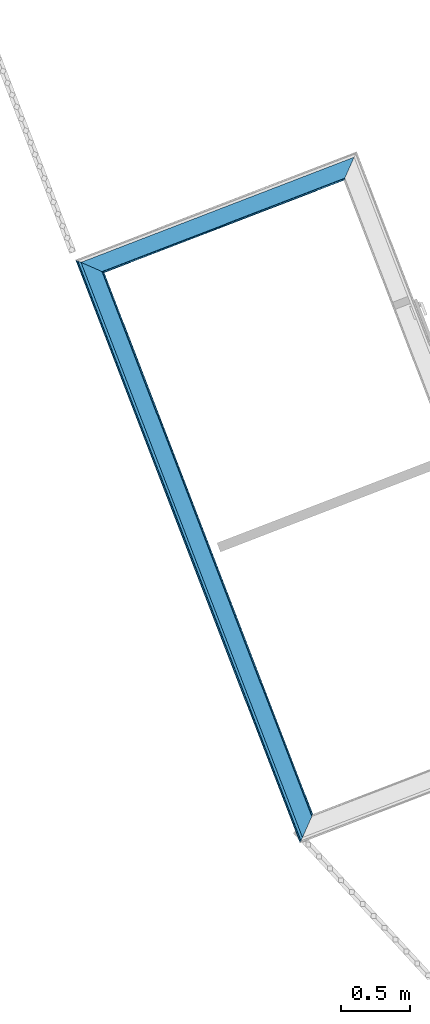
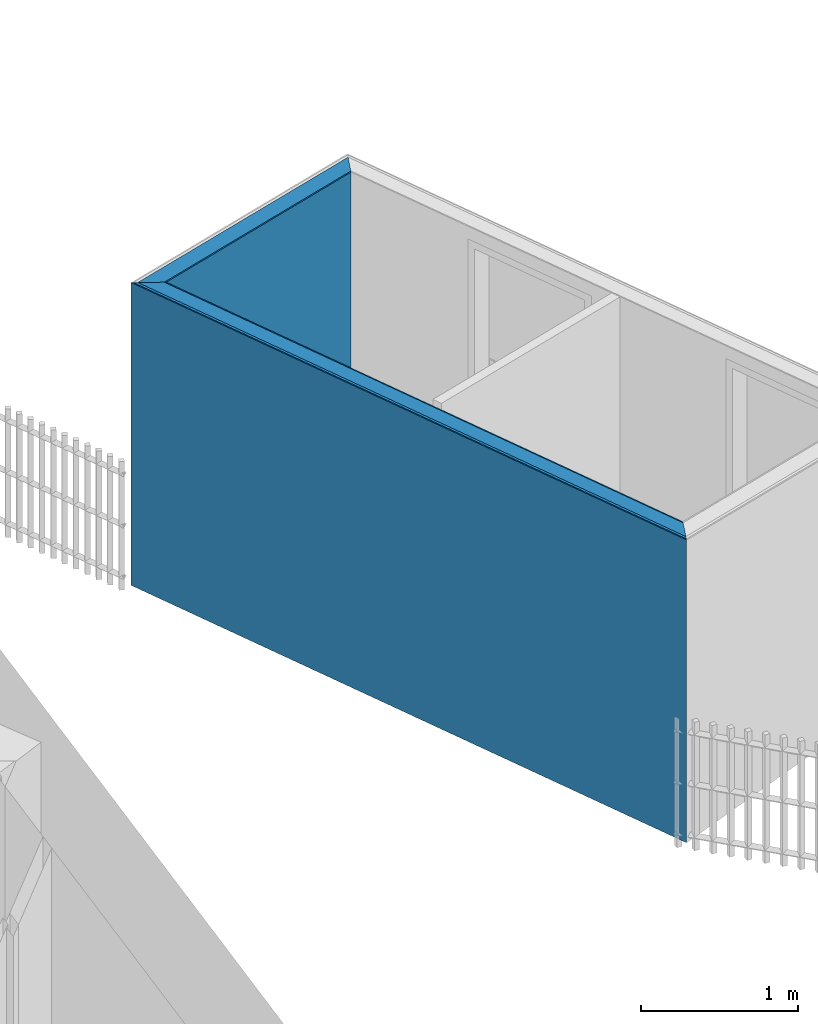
# One storey, part 127 of 195: 6 building element parts, 2 elements without a shape of their own.
"""IFC2X3 building model written with IfcOpenShell, lengths in metres."""

from ifc_helpers import new_model, entity, si_unit, converted_unit, derived_unit, money_unit, direction, frame, origin_with_axes, place, context, subcontext, project, spatial, polyline, outline, extrude, boolean, faceted_brep, material, type_object, element, aggregate, save


model = new_model("IFC2X3")

# Units and contexts
model_context = context("Model", 3, precision=1e-05, world=origin_with_axes(), true_north=direction((0.0, 1.0)))
body_context = subcontext(model_context, "Body", "Model", "MODEL_VIEW")
ifc_project = project(units=[si_unit("LENGTHUNIT", "METRE"), si_unit("AREAUNIT", "SQUARE_METRE"), si_unit("VOLUMEUNIT", "CUBIC_METRE"), converted_unit("PLANEANGLEUNIT", "DEGREE", entity("IfcPlaneAngleMeasure", 0.0174532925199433), si_unit("PLANEANGLEUNIT", "RADIAN"), dimensions=[0, 0, 0, 0, 0, 0, 0]), money_unit("CHF"), converted_unit("TIMEUNIT", "Year", entity("IfcTimeMeasure", 31557600.0), si_unit("TIMEUNIT", "SECOND"), dimensions=[0, 0, 1, 0, 0, 0, 0]), si_unit("MASSUNIT", "GRAM", prefix="KILO"), si_unit("THERMODYNAMICTEMPERATUREUNIT", "DEGREE_CELSIUS"), si_unit("LUMINOUSINTENSITYUNIT", "LUMEN"), si_unit("ENERGYUNIT", "JOULE", prefix="MEGA"), derived_unit("THERMALCONDUCTANCEUNIT", [(si_unit("POWERUNIT", "WATT"), 1), (si_unit("LENGTHUNIT", "METRE"), -1), (si_unit("THERMODYNAMICTEMPERATUREUNIT", "KELVIN"), -1)]), derived_unit("SPECIFICHEATCAPACITYUNIT", [(si_unit("ENERGYUNIT", "JOULE"), 1), (si_unit("MASSUNIT", "GRAM", prefix="KILO"), -1), (si_unit("THERMODYNAMICTEMPERATUREUNIT", "KELVIN"), -1)]), derived_unit("MASSDENSITYUNIT", [(si_unit("MASSUNIT", "GRAM", prefix="KILO"), 1), (si_unit("VOLUMEUNIT", "CUBIC_METRE"), -1)])], contexts=[model_context])

# Site, building, storey
site_placement = place(None, origin_with_axes())
site = spatial("IfcSite", under=ifc_project, at=site_placement, Name="Site", CompositionType="ELEMENT")
building_placement = place(site_placement, origin_with_axes())
building = spatial("IfcBuilding", under=site, at=building_placement, Name="Bâtiment", CompositionType="ELEMENT")
storey_placement = place(building_placement, origin_with_axes())
storey = spatial("IfcBuildingStorey", under=building, at=storey_placement, Name="rdc", CompositionType="ELEMENT", Elevation=0.0)

# Wall, building element parts
wall_type = type_object("IfcWallType", Name="1/Ossatur bois 160   non isol 160", PredefinedType="NOTDEFINED")
wall_1_placement = place(storey_placement, frame((9573.572105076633, -1039.792446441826, 57.7), z_axis=(0.0, 0.0, 1.0), x_axis=(-0.3593252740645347, 0.9332123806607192, 0.0)))
wall_1 = element("IfcWall", 1, at=wall_1_placement, inside=storey, type_object=wall_type, Name="Mur-108")
ifc_material_1 = material(Name="Lame d'air 275581439")
building_element_part_1_placement = place(wall_1_placement, origin_with_axes())
building_element_part_1 = element("IfcBuildingElementPart", 2, at=building_element_part_1_placement, material=ifc_material_1, Name="Lame d'air 275581439", context=body_context, shape_type="CSG", body=[
    boolean("DIFFERENCE", boolean("DIFFERENCE", boolean("DIFFERENCE", boolean("DIFFERENCE", extrude(outline(polyline([(0.0, -0.1499999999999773), (4.552099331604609, -0.1499999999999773), (4.552099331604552, -0.02999999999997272), (0.0, -0.0300000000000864), (0.0, -0.1499999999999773)])), origin_with_axes(), (0.0, 0.0, 1.0), 2.75), faceted_brep([(4.392099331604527, -0.1599999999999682, 2.342098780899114), (4.392099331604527, -0.1599999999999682, 0.0), (4.552099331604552, -0.1599999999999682, 0.0), (4.552099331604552, -0.1599999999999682, 2.75), (0.0, -0.1599999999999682, 2.75), (0.0, -0.1599999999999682, 0.0), (0.1599999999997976, -0.1600000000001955, 0.0), (0.1599999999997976, -0.1600000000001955, 2.342098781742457), (4.402099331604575, -0.1499999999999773, 2.342973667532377), (4.402099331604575, -0.1499999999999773, 0.0), (4.552099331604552, -0.1499999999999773, 0.0), (4.552099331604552, -0.1499999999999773, 2.75), (0.0, -0.1499999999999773, 2.75), (0.0, -0.1499999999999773, 0.0), (0.1499999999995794, -0.1499999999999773, 0.0), (0.1499999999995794, -0.1499999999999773, 2.342973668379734)], [[[0, 1, 2, 3, 4, 5, 6, 7]], [[1, 0, 8, 9]], [[1, 9, 10, 2]], [[3, 2, 10, 11]], [[12, 4, 3, 11]], [[12, 13, 5, 4]], [[14, 6, 5, 13]], [[7, 6, 14, 15]], [[0, 7, 15, 8]], [[15, 14, 13, 12, 11, 10, 9, 8]]])), faceted_brep([(4.402099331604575, -0.1499999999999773, 2.342973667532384), (4.402099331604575, -0.1499999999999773, 0.0), (4.552099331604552, -0.1499999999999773, 0.0), (4.552099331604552, -0.1499999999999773, 2.75), (0.0, -0.1499999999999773, 2.75), (0.0, -0.1499999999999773, 0.0), (0.1499999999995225, -0.1499999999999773, 0.0), (0.1499999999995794, -0.1499999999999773, 2.342973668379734), (4.522099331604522, -0.02999999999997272, 2.353472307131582), (4.522099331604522, -0.02999999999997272, 0.0), (4.552099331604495, -0.02999999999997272, 0.0), (4.552099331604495, -0.02999999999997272, 2.75), (0.0, -0.0300000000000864, 2.75), (0.0, -0.0300000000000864, 0.0), (0.02999999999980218, -0.0300000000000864, 0.0), (0.0299999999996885, -0.02999999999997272, 2.35347230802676)], [[[0, 1, 2, 3, 4, 5, 6, 7]], [[1, 0, 8, 9]], [[1, 9, 10, 2]], [[3, 2, 10, 11]], [[12, 4, 3, 11]], [[12, 13, 5, 4]], [[14, 6, 5, 13]], [[7, 6, 14, 15]], [[0, 7, 15, 8]], [[15, 14, 13, 12, 11, 10, 9, 8]]])), faceted_brep([(4.522099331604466, -0.02999999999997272, 2.353472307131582), (4.522099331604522, -0.02999999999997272, 0.0), (4.552099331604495, -0.02999999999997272, 0.0), (4.552099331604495, -0.02999999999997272, 2.75), (0.0, -0.0300000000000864, 2.75), (0.0, -0.0300000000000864, 0.0), (0.02999999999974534, -0.02999999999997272, 0.0), (0.02999999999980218, -0.0300000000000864, 2.353472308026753), (4.54209933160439, -0.01000000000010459, 2.3552220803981), (4.54209933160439, -0.01000000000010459, 0.0), (4.552099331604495, -0.01000000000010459, 0.0), (4.552099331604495, -0.01000000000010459, 2.75), (0.0, -0.01000000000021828, 2.75), (0.0, -0.01000000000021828, 0.0), (0.009999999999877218, -0.01000000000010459, 0.0), (0.01000000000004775, -0.01000000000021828, 2.355222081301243)], [[[0, 1, 2, 3, 4, 5, 6, 7]], [[1, 0, 8, 9]], [[1, 9, 10, 2]], [[3, 2, 10, 11]], [[12, 4, 3, 11]], [[12, 13, 5, 4]], [[14, 6, 5, 13]], [[7, 6, 14, 15]], [[0, 7, 15, 8]], [[15, 14, 13, 12, 11, 10, 9, 8]]])), faceted_brep([(4.54209933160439, -0.01000000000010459, 2.355222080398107), (4.54209933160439, -0.01000000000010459, 0.0), (4.552099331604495, -0.01000000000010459, 0.0), (4.552099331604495, -0.01000000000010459, 2.75), (0.0, -0.01000000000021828, 2.75), (0.0, -0.01000000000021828, 0.0), (0.009999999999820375, -0.01000000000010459, 0.0), (0.009999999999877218, -0.01000000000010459, 2.35522208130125), (4.552099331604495, 0.0, 2.356096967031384), (4.552099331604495, 0.0, 0.0), (4.552099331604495, 0.0, 2.75), (0.0, 0.0, 2.75), (0.0, 0.0, 2.356096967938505), (0.0, 0.0, 0.0)], [[[0, 1, 2, 3, 4, 5, 6, 7]], [[1, 0, 8, 9]], [[1, 9, 2]], [[9, 8, 10, 3, 2]], [[11, 4, 3, 10]], [[12, 13, 5, 4, 11]], [[13, 6, 5]], [[7, 6, 13, 12]], [[0, 7, 12, 8]], [[8, 12, 11, 10]]])),
])
ifc_material_2 = material(Name="Sans Trame 296962763")
building_element_part_2_placement = place(wall_1_placement, origin_with_axes())
building_element_part_2 = element("IfcBuildingElementPart", 3, at=building_element_part_2_placement, material=ifc_material_2, Name="Sans Trame 296962763", context=body_context, shape_type="CSG", body=[
    boolean("DIFFERENCE", boolean("DIFFERENCE", boolean("DIFFERENCE", boolean("DIFFERENCE", extrude(outline(polyline([(0.0, -0.1599999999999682), (4.552099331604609, -0.1599999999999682), (4.552099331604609, -0.1499999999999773), (0.0, -0.1499999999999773), (0.0, -0.1599999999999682)])), origin_with_axes(), (0.0, 0.0, 1.0), 2.75), faceted_brep([(4.392099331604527, -0.1599999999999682, 2.342098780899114), (4.392099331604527, -0.1599999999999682, 0.0), (4.552099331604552, -0.1599999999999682, 0.0), (4.552099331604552, -0.1599999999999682, 2.75), (0.0, -0.1599999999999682, 2.75), (0.0, -0.1599999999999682, 0.0), (0.1599999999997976, -0.1600000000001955, 0.0), (0.1599999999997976, -0.1600000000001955, 2.342098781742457), (4.402099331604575, -0.1499999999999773, 2.342973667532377), (4.402099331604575, -0.1499999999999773, 0.0), (4.552099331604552, -0.1499999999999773, 0.0), (4.552099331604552, -0.1499999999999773, 2.75), (0.0, -0.1499999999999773, 2.75), (0.0, -0.1499999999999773, 0.0), (0.1499999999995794, -0.1499999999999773, 0.0), (0.1499999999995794, -0.1499999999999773, 2.342973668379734)], [[[0, 1, 2, 3, 4, 5, 6, 7]], [[1, 0, 8, 9]], [[1, 9, 10, 2]], [[3, 2, 10, 11]], [[12, 4, 3, 11]], [[12, 13, 5, 4]], [[14, 6, 5, 13]], [[7, 6, 14, 15]], [[0, 7, 15, 8]], [[15, 14, 13, 12, 11, 10, 9, 8]]])), faceted_brep([(4.402099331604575, -0.1499999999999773, 2.342973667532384), (4.402099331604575, -0.1499999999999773, 0.0), (4.552099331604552, -0.1499999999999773, 0.0), (4.552099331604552, -0.1499999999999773, 2.75), (0.0, -0.1499999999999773, 2.75), (0.0, -0.1499999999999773, 0.0), (0.1499999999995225, -0.1499999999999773, 0.0), (0.1499999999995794, -0.1499999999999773, 2.342973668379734), (4.522099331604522, -0.02999999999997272, 2.353472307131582), (4.522099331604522, -0.02999999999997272, 0.0), (4.552099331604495, -0.02999999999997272, 0.0), (4.552099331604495, -0.02999999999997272, 2.75), (0.0, -0.0300000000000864, 2.75), (0.0, -0.0300000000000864, 0.0), (0.02999999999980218, -0.0300000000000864, 0.0), (0.0299999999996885, -0.02999999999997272, 2.35347230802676)], [[[0, 1, 2, 3, 4, 5, 6, 7]], [[1, 0, 8, 9]], [[1, 9, 10, 2]], [[3, 2, 10, 11]], [[12, 4, 3, 11]], [[12, 13, 5, 4]], [[14, 6, 5, 13]], [[7, 6, 14, 15]], [[0, 7, 15, 8]], [[15, 14, 13, 12, 11, 10, 9, 8]]])), faceted_brep([(4.522099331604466, -0.02999999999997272, 2.353472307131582), (4.522099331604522, -0.02999999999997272, 0.0), (4.552099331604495, -0.02999999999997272, 0.0), (4.552099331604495, -0.02999999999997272, 2.75), (0.0, -0.0300000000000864, 2.75), (0.0, -0.0300000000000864, 0.0), (0.02999999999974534, -0.02999999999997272, 0.0), (0.02999999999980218, -0.0300000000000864, 2.353472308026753), (4.54209933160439, -0.01000000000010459, 2.3552220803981), (4.54209933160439, -0.01000000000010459, 0.0), (4.552099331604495, -0.01000000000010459, 0.0), (4.552099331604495, -0.01000000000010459, 2.75), (0.0, -0.01000000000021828, 2.75), (0.0, -0.01000000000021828, 0.0), (0.009999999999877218, -0.01000000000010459, 0.0), (0.01000000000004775, -0.01000000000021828, 2.355222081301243)], [[[0, 1, 2, 3, 4, 5, 6, 7]], [[1, 0, 8, 9]], [[1, 9, 10, 2]], [[3, 2, 10, 11]], [[12, 4, 3, 11]], [[12, 13, 5, 4]], [[14, 6, 5, 13]], [[7, 6, 14, 15]], [[0, 7, 15, 8]], [[15, 14, 13, 12, 11, 10, 9, 8]]])), faceted_brep([(4.54209933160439, -0.01000000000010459, 2.355222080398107), (4.54209933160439, -0.01000000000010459, 0.0), (4.552099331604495, -0.01000000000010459, 0.0), (4.552099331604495, -0.01000000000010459, 2.75), (0.0, -0.01000000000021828, 2.75), (0.0, -0.01000000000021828, 0.0), (0.009999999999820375, -0.01000000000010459, 0.0), (0.009999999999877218, -0.01000000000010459, 2.35522208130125), (4.552099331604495, 0.0, 2.356096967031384), (4.552099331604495, 0.0, 0.0), (4.552099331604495, 0.0, 2.75), (0.0, 0.0, 2.75), (0.0, 0.0, 2.356096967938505), (0.0, 0.0, 0.0)], [[[0, 1, 2, 3, 4, 5, 6, 7]], [[1, 0, 8, 9]], [[1, 9, 2]], [[9, 8, 10, 3, 2]], [[11, 4, 3, 10]], [[12, 13, 5, 4, 11]], [[13, 6, 5]], [[7, 6, 13, 12]], [[0, 7, 12, 8]], [[8, 12, 11, 10]]])),
])
ifc_material_3 = material(Name="Lame d'air 323202302")
building_element_part_3_placement = place(wall_1_placement, origin_with_axes())
building_element_part_3 = element("IfcBuildingElementPart", 4, at=building_element_part_3_placement, material=ifc_material_3, Name="Lame d'air 323202302", context=body_context, shape_type="CSG", body=[
    boolean("DIFFERENCE", boolean("DIFFERENCE", boolean("DIFFERENCE", boolean("DIFFERENCE", extrude(outline(polyline([(0.0, -0.0300000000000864), (4.552099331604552, -0.02999999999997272), (4.552099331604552, -0.01000000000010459), (0.0, -0.01000000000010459), (0.0, -0.0300000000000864)])), origin_with_axes(), (0.0, 0.0, 1.0), 2.75), faceted_brep([(4.392099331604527, -0.1599999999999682, 2.342098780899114), (4.392099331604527, -0.1599999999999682, 0.0), (4.552099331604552, -0.1599999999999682, 0.0), (4.552099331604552, -0.1599999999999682, 2.75), (0.0, -0.1599999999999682, 2.75), (0.0, -0.1599999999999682, 0.0), (0.1599999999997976, -0.1600000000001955, 0.0), (0.1599999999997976, -0.1600000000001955, 2.342098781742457), (4.402099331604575, -0.1499999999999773, 2.342973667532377), (4.402099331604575, -0.1499999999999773, 0.0), (4.552099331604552, -0.1499999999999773, 0.0), (4.552099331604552, -0.1499999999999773, 2.75), (0.0, -0.1499999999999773, 2.75), (0.0, -0.1499999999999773, 0.0), (0.1499999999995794, -0.1499999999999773, 0.0), (0.1499999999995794, -0.1499999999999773, 2.342973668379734)], [[[0, 1, 2, 3, 4, 5, 6, 7]], [[1, 0, 8, 9]], [[1, 9, 10, 2]], [[3, 2, 10, 11]], [[12, 4, 3, 11]], [[12, 13, 5, 4]], [[14, 6, 5, 13]], [[7, 6, 14, 15]], [[0, 7, 15, 8]], [[15, 14, 13, 12, 11, 10, 9, 8]]])), faceted_brep([(4.402099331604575, -0.1499999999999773, 2.342973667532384), (4.402099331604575, -0.1499999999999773, 0.0), (4.552099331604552, -0.1499999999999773, 0.0), (4.552099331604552, -0.1499999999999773, 2.75), (0.0, -0.1499999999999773, 2.75), (0.0, -0.1499999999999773, 0.0), (0.1499999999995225, -0.1499999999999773, 0.0), (0.1499999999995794, -0.1499999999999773, 2.342973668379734), (4.522099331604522, -0.02999999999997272, 2.353472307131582), (4.522099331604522, -0.02999999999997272, 0.0), (4.552099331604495, -0.02999999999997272, 0.0), (4.552099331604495, -0.02999999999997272, 2.75), (0.0, -0.0300000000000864, 2.75), (0.0, -0.0300000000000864, 0.0), (0.02999999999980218, -0.0300000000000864, 0.0), (0.0299999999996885, -0.02999999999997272, 2.35347230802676)], [[[0, 1, 2, 3, 4, 5, 6, 7]], [[1, 0, 8, 9]], [[1, 9, 10, 2]], [[3, 2, 10, 11]], [[12, 4, 3, 11]], [[12, 13, 5, 4]], [[14, 6, 5, 13]], [[7, 6, 14, 15]], [[0, 7, 15, 8]], [[15, 14, 13, 12, 11, 10, 9, 8]]])), faceted_brep([(4.522099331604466, -0.02999999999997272, 2.353472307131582), (4.522099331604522, -0.02999999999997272, 0.0), (4.552099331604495, -0.02999999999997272, 0.0), (4.552099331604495, -0.02999999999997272, 2.75), (0.0, -0.0300000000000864, 2.75), (0.0, -0.0300000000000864, 0.0), (0.02999999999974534, -0.02999999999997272, 0.0), (0.02999999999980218, -0.0300000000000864, 2.353472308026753), (4.54209933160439, -0.01000000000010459, 2.3552220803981), (4.54209933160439, -0.01000000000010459, 0.0), (4.552099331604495, -0.01000000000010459, 0.0), (4.552099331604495, -0.01000000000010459, 2.75), (0.0, -0.01000000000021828, 2.75), (0.0, -0.01000000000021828, 0.0), (0.009999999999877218, -0.01000000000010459, 0.0), (0.01000000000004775, -0.01000000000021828, 2.355222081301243)], [[[0, 1, 2, 3, 4, 5, 6, 7]], [[1, 0, 8, 9]], [[1, 9, 10, 2]], [[3, 2, 10, 11]], [[12, 4, 3, 11]], [[12, 13, 5, 4]], [[14, 6, 5, 13]], [[7, 6, 14, 15]], [[0, 7, 15, 8]], [[15, 14, 13, 12, 11, 10, 9, 8]]])), faceted_brep([(4.54209933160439, -0.01000000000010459, 2.355222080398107), (4.54209933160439, -0.01000000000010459, 0.0), (4.552099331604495, -0.01000000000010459, 0.0), (4.552099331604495, -0.01000000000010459, 2.75), (0.0, -0.01000000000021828, 2.75), (0.0, -0.01000000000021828, 0.0), (0.009999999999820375, -0.01000000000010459, 0.0), (0.009999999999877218, -0.01000000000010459, 2.35522208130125), (4.552099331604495, 0.0, 2.356096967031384), (4.552099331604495, 0.0, 0.0), (4.552099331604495, 0.0, 2.75), (0.0, 0.0, 2.75), (0.0, 0.0, 2.356096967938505), (0.0, 0.0, 0.0)], [[[0, 1, 2, 3, 4, 5, 6, 7]], [[1, 0, 8, 9]], [[1, 9, 2]], [[9, 8, 10, 3, 2]], [[11, 4, 3, 10]], [[12, 13, 5, 4, 11]], [[13, 6, 5]], [[7, 6, 13, 12]], [[0, 7, 12, 8]], [[8, 12, 11, 10]]])),
])
ifc_material_4 = material(Name="Hachure solide 323202122")
building_element_part_4_placement = place(wall_1_placement, origin_with_axes())
building_element_part_4 = element("IfcBuildingElementPart", 5, at=building_element_part_4_placement, material=ifc_material_4, Name="Hachure solide 323202122", context=body_context, shape_type="CSG", body=[
    boolean("DIFFERENCE", boolean("DIFFERENCE", boolean("DIFFERENCE", boolean("DIFFERENCE", extrude(outline(polyline([(0.0, -0.01000000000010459), (4.552099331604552, -0.01000000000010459), (4.552099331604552, 0.0), (0.0, 0.0), (0.0, -0.01000000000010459)])), origin_with_axes(), (0.0, 0.0, 1.0), 2.75), faceted_brep([(4.392099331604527, -0.1599999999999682, 2.342098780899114), (4.392099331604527, -0.1599999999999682, 0.0), (4.552099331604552, -0.1599999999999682, 0.0), (4.552099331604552, -0.1599999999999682, 2.75), (0.0, -0.1599999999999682, 2.75), (0.0, -0.1599999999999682, 0.0), (0.1599999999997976, -0.1600000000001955, 0.0), (0.1599999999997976, -0.1600000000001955, 2.342098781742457), (4.402099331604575, -0.1499999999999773, 2.342973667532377), (4.402099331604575, -0.1499999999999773, 0.0), (4.552099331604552, -0.1499999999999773, 0.0), (4.552099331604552, -0.1499999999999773, 2.75), (0.0, -0.1499999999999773, 2.75), (0.0, -0.1499999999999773, 0.0), (0.1499999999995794, -0.1499999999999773, 0.0), (0.1499999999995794, -0.1499999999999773, 2.342973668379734)], [[[0, 1, 2, 3, 4, 5, 6, 7]], [[1, 0, 8, 9]], [[1, 9, 10, 2]], [[3, 2, 10, 11]], [[12, 4, 3, 11]], [[12, 13, 5, 4]], [[14, 6, 5, 13]], [[7, 6, 14, 15]], [[0, 7, 15, 8]], [[15, 14, 13, 12, 11, 10, 9, 8]]])), faceted_brep([(4.402099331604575, -0.1499999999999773, 2.342973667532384), (4.402099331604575, -0.1499999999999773, 0.0), (4.552099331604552, -0.1499999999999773, 0.0), (4.552099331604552, -0.1499999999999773, 2.75), (0.0, -0.1499999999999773, 2.75), (0.0, -0.1499999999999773, 0.0), (0.1499999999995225, -0.1499999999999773, 0.0), (0.1499999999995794, -0.1499999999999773, 2.342973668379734), (4.522099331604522, -0.02999999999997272, 2.353472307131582), (4.522099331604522, -0.02999999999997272, 0.0), (4.552099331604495, -0.02999999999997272, 0.0), (4.552099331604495, -0.02999999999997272, 2.75), (0.0, -0.0300000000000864, 2.75), (0.0, -0.0300000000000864, 0.0), (0.02999999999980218, -0.0300000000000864, 0.0), (0.0299999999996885, -0.02999999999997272, 2.35347230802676)], [[[0, 1, 2, 3, 4, 5, 6, 7]], [[1, 0, 8, 9]], [[1, 9, 10, 2]], [[3, 2, 10, 11]], [[12, 4, 3, 11]], [[12, 13, 5, 4]], [[14, 6, 5, 13]], [[7, 6, 14, 15]], [[0, 7, 15, 8]], [[15, 14, 13, 12, 11, 10, 9, 8]]])), faceted_brep([(4.522099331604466, -0.02999999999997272, 2.353472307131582), (4.522099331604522, -0.02999999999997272, 0.0), (4.552099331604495, -0.02999999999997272, 0.0), (4.552099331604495, -0.02999999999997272, 2.75), (0.0, -0.0300000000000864, 2.75), (0.0, -0.0300000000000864, 0.0), (0.02999999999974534, -0.02999999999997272, 0.0), (0.02999999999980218, -0.0300000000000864, 2.353472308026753), (4.54209933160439, -0.01000000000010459, 2.3552220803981), (4.54209933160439, -0.01000000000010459, 0.0), (4.552099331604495, -0.01000000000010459, 0.0), (4.552099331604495, -0.01000000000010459, 2.75), (0.0, -0.01000000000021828, 2.75), (0.0, -0.01000000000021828, 0.0), (0.009999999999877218, -0.01000000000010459, 0.0), (0.01000000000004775, -0.01000000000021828, 2.355222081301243)], [[[0, 1, 2, 3, 4, 5, 6, 7]], [[1, 0, 8, 9]], [[1, 9, 10, 2]], [[3, 2, 10, 11]], [[12, 4, 3, 11]], [[12, 13, 5, 4]], [[14, 6, 5, 13]], [[7, 6, 14, 15]], [[0, 7, 15, 8]], [[15, 14, 13, 12, 11, 10, 9, 8]]])), faceted_brep([(4.54209933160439, -0.01000000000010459, 2.355222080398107), (4.54209933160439, -0.01000000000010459, 0.0), (4.552099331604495, -0.01000000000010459, 0.0), (4.552099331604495, -0.01000000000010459, 2.75), (0.0, -0.01000000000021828, 2.75), (0.0, -0.01000000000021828, 0.0), (0.009999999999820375, -0.01000000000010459, 0.0), (0.009999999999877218, -0.01000000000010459, 2.35522208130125), (4.552099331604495, 0.0, 2.356096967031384), (4.552099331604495, 0.0, 0.0), (4.552099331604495, 0.0, 2.75), (0.0, 0.0, 2.75), (0.0, 0.0, 2.356096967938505), (0.0, 0.0, 0.0)], [[[0, 1, 2, 3, 4, 5, 6, 7]], [[1, 0, 8, 9]], [[1, 9, 2]], [[9, 8, 10, 3, 2]], [[11, 4, 3, 10]], [[12, 13, 5, 4, 11]], [[13, 6, 5]], [[7, 6, 13, 12]], [[0, 7, 12, 8]], [[8, 12, 11, 10]]])),
])
aggregate(wall_1, [building_element_part_1, building_element_part_2, building_element_part_3, building_element_part_4])

wall_2_placement = place(storey_placement, frame((9571.936420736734, -1035.544370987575, 57.7), z_axis=(0.0, 0.0, 1.0), x_axis=(0.9332123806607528, 0.3593252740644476, 0.0)))
wall_2 = element("IfcWall", 6, at=wall_2_placement, inside=storey, type_object=wall_type, Name="Mur-109")
building_element_part_5_placement = place(wall_2_placement, origin_with_axes())
building_element_part_5 = element("IfcBuildingElementPart", 7, at=building_element_part_5_placement, material=ifc_material_2, Name="Sans Trame 296962763", context=body_context, shape_type="CSG", body=[
    boolean("DIFFERENCE", boolean("DIFFERENCE", boolean("DIFFERENCE", boolean("DIFFERENCE", extrude(outline(polyline([(0.0, -0.1599999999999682), (2.19310865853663, -0.1599999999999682), (2.19310865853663, -0.1499999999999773), (0.0, -0.1499999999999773), (0.0, -0.1599999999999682)])), origin_with_axes(), (0.0, 0.0, 1.0), 2.75), faceted_brep([(0.1500000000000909, -0.1500000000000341, 2.342973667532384), (0.1500000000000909, -0.1500000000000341, 0.0), (0.0, -0.1499999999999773, 0.0), (0.0, -0.1499999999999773, 2.75), (2.19310865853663, -0.1499999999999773, 2.75), (2.19310865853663, -0.1499999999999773, 0.0), (2.043108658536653, -0.1499999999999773, 0.0), (2.043108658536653, -0.1499999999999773, 2.177348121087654), (0.1600000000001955, -0.160000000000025, 2.342098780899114), (0.1600000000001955, -0.160000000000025, 0.0), (0.0, -0.160000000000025, 0.0), (0.0, -0.160000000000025, 2.75), (2.19310865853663, -0.160000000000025, 2.75), (2.19310865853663, -0.160000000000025, 0.0), (2.033108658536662, -0.1600000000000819, 0.0), (2.033108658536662, -0.1600000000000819, 2.17822300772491)], [[[0, 1, 2, 3, 4, 5, 6, 7]], [[8, 9, 1, 0]], [[1, 9, 10, 2]], [[3, 2, 10, 11]], [[3, 11, 12, 4]], [[12, 13, 5, 4]], [[14, 6, 5, 13]], [[7, 6, 14, 15]], [[0, 7, 15, 8]], [[15, 14, 13, 12, 11, 10, 9, 8]]])), faceted_brep([(0.0300000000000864, -0.0300000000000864, 2.35347230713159), (0.0300000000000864, -0.03000000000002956, 0.0), (0.0, -0.03000000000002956, 0.0), (0.0, -0.03000000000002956, 2.75), (2.193108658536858, -0.03000000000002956, 2.75), (2.193108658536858, -0.03000000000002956, 0.0), (2.163108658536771, -0.03000000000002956, 0.0), (2.163108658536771, -0.03000000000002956, 2.166849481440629), (0.1500000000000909, -0.1500000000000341, 2.342973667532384), (0.1500000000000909, -0.1500000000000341, 0.0), (0.0, -0.1499999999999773, 0.0), (0.0, -0.1499999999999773, 2.75), (2.19310865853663, -0.1499999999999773, 2.75), (2.19310865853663, -0.1499999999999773, 0.0), (2.043108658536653, -0.1499999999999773, 0.0), (2.043108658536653, -0.1499999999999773, 2.177348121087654)], [[[0, 1, 2, 3, 4, 5, 6, 7]], [[8, 9, 1, 0]], [[1, 9, 10, 2]], [[3, 2, 10, 11]], [[3, 11, 12, 4]], [[12, 13, 5, 4]], [[14, 6, 5, 13]], [[7, 6, 14, 15]], [[0, 7, 15, 8]], [[15, 14, 13, 12, 11, 10, 9, 8]]])), faceted_brep([(0.009999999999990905, -0.009999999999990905, 2.355222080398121), (0.01000000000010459, -0.01000000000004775, 0.0), (0.0, -0.01000000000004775, 0.0), (0.0, -0.01000000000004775, 2.75), (2.193108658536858, -0.01000000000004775, 2.75), (2.193108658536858, -0.01000000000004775, 0.0), (2.183108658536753, -0.01000000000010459, 0.0), (2.183108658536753, -0.01000000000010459, 2.165099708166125), (0.0300000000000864, -0.03000000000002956, 2.35347230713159), (0.0300000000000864, -0.03000000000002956, 0.0), (0.0, -0.03000000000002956, 0.0), (0.0, -0.03000000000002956, 2.75), (2.193108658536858, -0.03000000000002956, 2.75), (2.193108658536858, -0.03000000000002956, 0.0), (2.163108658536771, -0.03000000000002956, 0.0), (2.163108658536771, -0.02999999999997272, 2.166849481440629)], [[[0, 1, 2, 3, 4, 5, 6, 7]], [[8, 9, 1, 0]], [[1, 9, 10, 2]], [[3, 2, 10, 11]], [[3, 11, 12, 4]], [[12, 13, 5, 4]], [[14, 6, 5, 13]], [[7, 6, 14, 15]], [[0, 7, 15, 8]], [[15, 14, 13, 12, 11, 10, 9, 8]]])), faceted_brep([(2.19310865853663, 0.0, 0.0), (2.19310865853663, 0.0, 2.164224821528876), (2.19310865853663, 0.0, 2.75), (2.193108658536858, -0.01000000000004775, 2.75), (2.193108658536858, -0.01000000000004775, 0.0), (2.183108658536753, -0.01000000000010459, 0.0), (2.183108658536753, -0.01000000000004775, 2.165099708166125), (0.0, 0.0, 2.356096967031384), (0.0, 0.0, 2.75), (0.0, -0.01000000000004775, 2.75), (0.0, -0.01000000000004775, 0.0), (0.01000000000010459, -0.01000000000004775, 0.0), (0.009999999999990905, -0.009999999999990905, 2.355222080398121), (0.0, 0.0, 0.0)], [[[0, 1, 2, 3, 4]], [[1, 0, 5, 6]], [[1, 7, 8, 2]], [[8, 9, 3, 2]], [[6, 5, 4, 3, 9, 10, 11, 12]], [[5, 0, 4]], [[7, 1, 6, 12]], [[7, 13, 10, 9, 8]], [[13, 11, 10]], [[12, 11, 13, 7]]])),
])
building_element_part_6_placement = place(wall_2_placement, origin_with_axes())
building_element_part_6 = element("IfcBuildingElementPart", 8, at=building_element_part_6_placement, material=ifc_material_1, Name="Lame d'air 275581439", context=body_context, shape_type="CSG", body=[
    boolean("DIFFERENCE", boolean("DIFFERENCE", boolean("DIFFERENCE", boolean("DIFFERENCE", extrude(outline(polyline([(0.0, -0.1499999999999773), (2.19310865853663, -0.1499999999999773), (2.193108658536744, -0.02999999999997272), (0.0, -0.02999999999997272), (0.0, -0.1499999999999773)])), origin_with_axes(), (0.0, 0.0, 1.0), 2.75), faceted_brep([(0.1500000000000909, -0.1500000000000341, 2.342973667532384), (0.1500000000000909, -0.1500000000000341, 0.0), (0.0, -0.1499999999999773, 0.0), (0.0, -0.1499999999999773, 2.75), (2.19310865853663, -0.1499999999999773, 2.75), (2.19310865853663, -0.1499999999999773, 0.0), (2.043108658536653, -0.1499999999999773, 0.0), (2.043108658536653, -0.1499999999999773, 2.177348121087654), (0.1600000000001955, -0.160000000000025, 2.342098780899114), (0.1600000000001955, -0.160000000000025, 0.0), (0.0, -0.160000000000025, 0.0), (0.0, -0.160000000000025, 2.75), (2.19310865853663, -0.160000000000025, 2.75), (2.19310865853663, -0.160000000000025, 0.0), (2.033108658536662, -0.1600000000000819, 0.0), (2.033108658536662, -0.1600000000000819, 2.17822300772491)], [[[0, 1, 2, 3, 4, 5, 6, 7]], [[8, 9, 1, 0]], [[1, 9, 10, 2]], [[3, 2, 10, 11]], [[3, 11, 12, 4]], [[12, 13, 5, 4]], [[14, 6, 5, 13]], [[7, 6, 14, 15]], [[0, 7, 15, 8]], [[15, 14, 13, 12, 11, 10, 9, 8]]])), faceted_brep([(0.0300000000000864, -0.0300000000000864, 2.35347230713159), (0.0300000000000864, -0.03000000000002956, 0.0), (0.0, -0.03000000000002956, 0.0), (0.0, -0.03000000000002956, 2.75), (2.193108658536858, -0.03000000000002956, 2.75), (2.193108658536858, -0.03000000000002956, 0.0), (2.163108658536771, -0.03000000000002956, 0.0), (2.163108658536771, -0.03000000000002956, 2.166849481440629), (0.1500000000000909, -0.1500000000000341, 2.342973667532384), (0.1500000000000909, -0.1500000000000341, 0.0), (0.0, -0.1499999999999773, 0.0), (0.0, -0.1499999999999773, 2.75), (2.19310865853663, -0.1499999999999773, 2.75), (2.19310865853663, -0.1499999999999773, 0.0), (2.043108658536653, -0.1499999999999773, 0.0), (2.043108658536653, -0.1499999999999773, 2.177348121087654)], [[[0, 1, 2, 3, 4, 5, 6, 7]], [[8, 9, 1, 0]], [[1, 9, 10, 2]], [[3, 2, 10, 11]], [[3, 11, 12, 4]], [[12, 13, 5, 4]], [[14, 6, 5, 13]], [[7, 6, 14, 15]], [[0, 7, 15, 8]], [[15, 14, 13, 12, 11, 10, 9, 8]]])), faceted_brep([(0.009999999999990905, -0.009999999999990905, 2.355222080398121), (0.01000000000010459, -0.01000000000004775, 0.0), (0.0, -0.01000000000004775, 0.0), (0.0, -0.01000000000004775, 2.75), (2.193108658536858, -0.01000000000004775, 2.75), (2.193108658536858, -0.01000000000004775, 0.0), (2.183108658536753, -0.01000000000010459, 0.0), (2.183108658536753, -0.01000000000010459, 2.165099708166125), (0.0300000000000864, -0.03000000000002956, 2.35347230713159), (0.0300000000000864, -0.03000000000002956, 0.0), (0.0, -0.03000000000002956, 0.0), (0.0, -0.03000000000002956, 2.75), (2.193108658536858, -0.03000000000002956, 2.75), (2.193108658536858, -0.03000000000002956, 0.0), (2.163108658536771, -0.03000000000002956, 0.0), (2.163108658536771, -0.02999999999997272, 2.166849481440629)], [[[0, 1, 2, 3, 4, 5, 6, 7]], [[8, 9, 1, 0]], [[1, 9, 10, 2]], [[3, 2, 10, 11]], [[3, 11, 12, 4]], [[12, 13, 5, 4]], [[14, 6, 5, 13]], [[7, 6, 14, 15]], [[0, 7, 15, 8]], [[15, 14, 13, 12, 11, 10, 9, 8]]])), faceted_brep([(2.19310865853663, 0.0, 0.0), (2.19310865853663, 0.0, 2.164224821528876), (2.19310865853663, 0.0, 2.75), (2.193108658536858, -0.01000000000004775, 2.75), (2.193108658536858, -0.01000000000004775, 0.0), (2.183108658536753, -0.01000000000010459, 0.0), (2.183108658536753, -0.01000000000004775, 2.165099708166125), (0.0, 0.0, 2.356096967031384), (0.0, 0.0, 2.75), (0.0, -0.01000000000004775, 2.75), (0.0, -0.01000000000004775, 0.0), (0.01000000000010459, -0.01000000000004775, 0.0), (0.009999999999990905, -0.009999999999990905, 2.355222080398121), (0.0, 0.0, 0.0)], [[[0, 1, 2, 3, 4]], [[1, 0, 5, 6]], [[1, 7, 8, 2]], [[8, 9, 3, 2]], [[6, 5, 4, 3, 9, 10, 11, 12]], [[5, 0, 4]], [[7, 1, 6, 12]], [[7, 13, 10, 9, 8]], [[13, 11, 10]], [[12, 11, 13, 7]]])),
])
aggregate(wall_2, [building_element_part_5, building_element_part_6])

save(model, "model.ifc")
